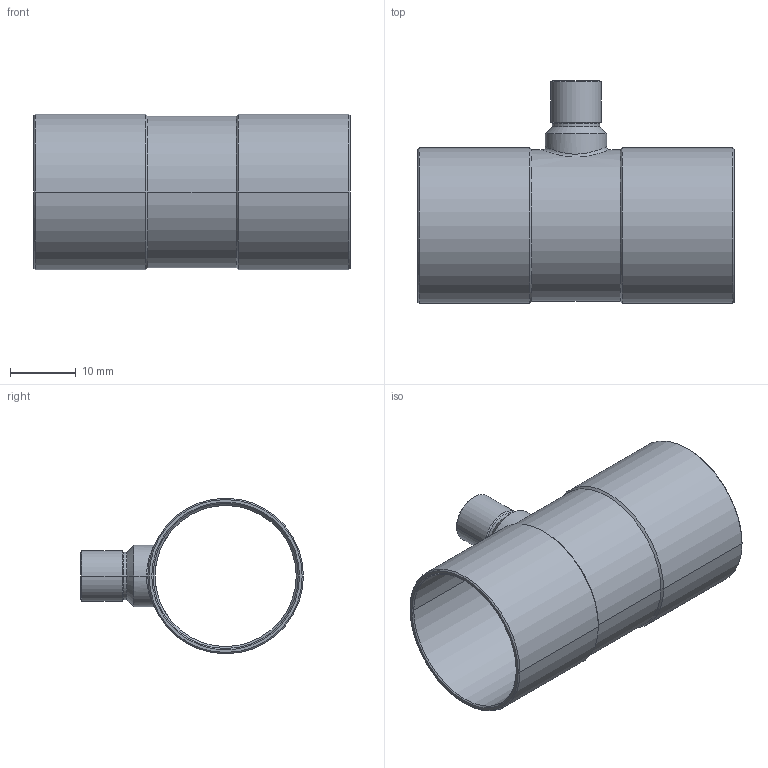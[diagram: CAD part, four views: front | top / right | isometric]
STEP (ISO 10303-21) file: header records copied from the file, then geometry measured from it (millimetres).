
FILE_DESCRIPTION((''),'2;1');
FILE_NAME('P:\Bouwmaten\z-maattekeningen 3D\5000\5130\513022622.stp','2005-10-26T11:53:57',('Kris'),(''),'Autodesk Inventor 8','Autodesk Inventor 8','');
FILE_SCHEMA(('AUTOMOTIVE_DESIGN { 1 0 10303 214 1 1 1 1 }'));
Length unit declared in the file: millimetre
Products named in the file (1): 513022622
Bounding box: 48 x 33.8 x 23.6 mm (x, y, z)
Volume: 2888.7 mm3; surface area: 7364.9 mm2
Topology: 1 solids, 1 shells, 57 faces, 124 edges, 68 vertices
Faces by surface type: cone 24, cylinder 20, bspline 10, plane 3
Entity records: 1909 total; most frequent: CARTESIAN_POINT 668, DIRECTION 264, ORIENTED_EDGE 248, EDGE_CURVE 124, AXIS2_PLACEMENT_3D 105, VERTEX_POINT 68, EDGE_LOOP 60, CIRCLE 57
